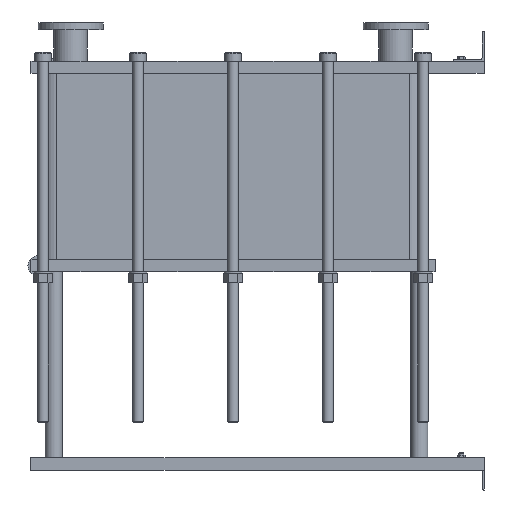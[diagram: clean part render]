
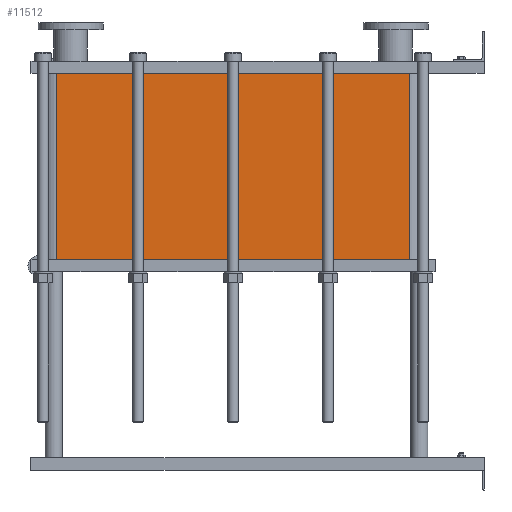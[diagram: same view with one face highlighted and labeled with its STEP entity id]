
A CAD part, left-side view. The second image highlights one B-rep face of the part: STEP entity #11512.
In plain terms, the highlighted planar face has unit normal (-1, 0, 0).
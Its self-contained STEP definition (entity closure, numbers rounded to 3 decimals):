
#1129=LINE('',#23232,#2102);
#1130=LINE('',#23236,#2103);
#1131=LINE('',#23238,#2104);
#1132=LINE('',#23239,#2105);
#2102=VECTOR('',#15887,10.);
#2103=VECTOR('',#15892,10.);
#2104=VECTOR('',#15893,10.);
#2105=VECTOR('',#15894,10.);
#3267=FACE_OUTER_BOUND('',#4093,.T.);
#4093=EDGE_LOOP('',(#10103,#10104,#10105,#10106));
#5642=VERTEX_POINT('',#23229);
#5643=VERTEX_POINT('',#23231);
#5644=VERTEX_POINT('',#23235);
#5645=VERTEX_POINT('',#23237);
#7159=EDGE_CURVE('',#5643,#5642,#1129,.T.);
#7161=EDGE_CURVE('',#5642,#5644,#1130,.T.);
#7162=EDGE_CURVE('',#5645,#5644,#1131,.T.);
#7163=EDGE_CURVE('',#5645,#5643,#1132,.T.);
#10103=ORIENTED_EDGE('',*,*,#7161,.T.);
#10104=ORIENTED_EDGE('',*,*,#7162,.F.);
#10105=ORIENTED_EDGE('',*,*,#7163,.T.);
#10106=ORIENTED_EDGE('',*,*,#7159,.T.);
#10857=PLANE('',#12751);
#11512=ADVANCED_FACE('',(#3267),#10857,.T.);
#12751=AXIS2_PLACEMENT_3D('',#23234,#15890,#15891);
#15887=DIRECTION('',(0.,0.,-1.));
#15890=DIRECTION('center_axis',(-1.,0.,0.));
#15891=DIRECTION('ref_axis',(0.,1.,0.));
#15892=DIRECTION('',(0.,-1.,0.));
#15893=DIRECTION('',(0.,0.,-1.));
#15894=DIRECTION('',(0.,1.,0.));
#23229=CARTESIAN_POINT('',(-200.,1414.,-617.55));
#23231=CARTESIAN_POINT('',(-200.,1414.,0.));
#23232=CARTESIAN_POINT('',(-200.,1414.,0.));
#23234=CARTESIAN_POINT('Origin',(-200.,248.,0.));
#23235=CARTESIAN_POINT('',(-200.,248.,-617.55));
#23236=CARTESIAN_POINT('',(-200.,539.5,-617.55));
#23237=CARTESIAN_POINT('',(-200.,248.,0.));
#23238=CARTESIAN_POINT('',(-200.,248.,0.));
#23239=CARTESIAN_POINT('',(-200.,248.,0.));
